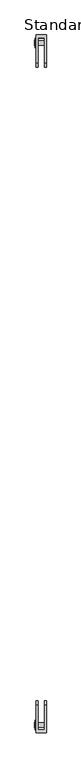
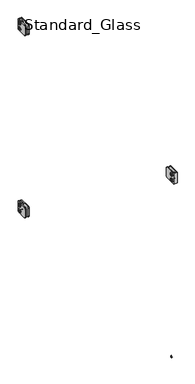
"""IFC4 building model written with IfcOpenShell, lengths in millimetres: railing geometry, Baluster-Excess-Fill-Straight-Panel-VIVA : Standard_Glass."""

from ifc_helpers import new_model, si_unit, point, frame, origin, place, context, project, spatial, polyline, circle_curve, ellipse_curve, trimmed, outline, extrude, source, transform, mapped, element, save
from ifc_brep_helpers import plane_surface, cylinder_surface, revolved_surface, advanced_brep


def standard_glass_ff66e2a0(model_context):
    return source(origin(), model_context, "Body", "SolidModel", [
        extrude(outline(polyline([(17.3185433, 917.178125), (15.2715791, 913.6326791), (11.1776508, 913.6326791), (9.1306867, 917.178125), (11.1776508, 920.7235709), (15.2715791, 920.7235709), (17.3185433, 917.178125)])), frame((21.7024185, 0.0, 0.0), z_axis=(1.0, 0.0, 0.0), x_axis=(0.0, 1.0, 0.0)), (0.0, 0.0, 1.0), 1.4969696),
        advanced_brep(
        [(36.7665, 16.7700609, 917.178125), (36.7665, 9.6791691, 917.178125), (24.0665, 9.6791691, 917.178125), (24.0665, 16.7700609, 917.178125), (24.0665, 5.8168259, 917.178125), (24.0665, 20.6324041, 917.178125), (23.199388, 14.8806904, 917.178125), (23.199388, 11.5685396, 917.178125), (36.7665, 11.5685396, 917.178125), (36.7665, 14.8806904, 917.178125), (23.2316551, 20.6324041, 917.178125), (23.2316551, 5.8168259, 917.178125), (21.9503831, 7.0980979, 917.178125), (21.9503831, 19.351132, 917.178125), (21.9503831, 8.9260194, 917.178125), (21.9503831, 17.5232105, 917.178125), (23.199388, 8.9260194, 917.178125), (23.199388, 17.5232105, 917.178125)],
        [
            (0, 1, circle_curve(frame((36.7665, 13.224615, 917.178125), z_axis=(-1.0, 0.0, 0.0), x_axis=(0.0, -1.0, 0.0)), 3.5454459)),
            (1, 2),
            (2, 3, circle_curve(frame((24.0665, 13.224615, 917.178125), z_axis=(1.0, 0.0, 0.0), x_axis=(0.0, -1.0, 0.0)), 3.5454459)),
            (3, 0),
            (1, 0, circle_curve(frame((36.7665, 13.224615, 917.178125), z_axis=(-1.0, 0.0, 0.0), x_axis=(0.0, -1.0, 0.0)), 3.5454459)),
            (3, 2, circle_curve(frame((24.0665, 13.224615, 917.178125), z_axis=(1.0, 0.0, 0.0), x_axis=(0.0, -1.0, 0.0)), 3.5454459)),
            (2, 4),
            (4, 5, circle_curve(frame((24.0665, 13.224615, 917.178125), z_axis=(1.0, 0.0, 0.0), x_axis=(0.0, -1.0, 0.0)), 7.4077891)),
            (5, 3),
            (5, 4, circle_curve(frame((24.0665, 13.224615, 917.178125), z_axis=(1.0, 0.0, 0.0), x_axis=(0.0, -1.0, 0.0)), 7.4077891)),
            (6, 7, circle_curve(frame((23.199388, 13.224615, 917.178125), z_axis=(-1.0, 0.0, 0.0), x_axis=(0.0, -1.0, 0.0)), 1.6560754)),
            (7, 8),
            (8, 9, circle_curve(frame((36.7665, 13.224615, 917.178125), z_axis=(1.0, 0.0, 0.0), x_axis=(0.0, -1.0, 0.0)), 1.6560754)),
            (9, 6),
            (7, 6, circle_curve(frame((23.199388, 13.224615, 917.178125), z_axis=(-1.0, 0.0, 0.0), x_axis=(0.0, -1.0, 0.0)), 1.6560754)),
            (9, 8, circle_curve(frame((36.7665, 13.224615, 917.178125), z_axis=(1.0, 0.0, 0.0), x_axis=(0.0, -1.0, 0.0)), 1.6560754)),
            (10, 11, circle_curve(frame((23.2316551, 13.224615, 917.178125), z_axis=(-1.0, 0.0, 0.0), x_axis=(0.0, -1.0, 0.0)), 7.4077891)),
            (11, 12, circle_curve(frame((23.2316551, 7.0980979, 917.178125), z_axis=(0.0, 0.0, -1.0), x_axis=(0.0, -1.0, 0.0)), 1.281272)),
            (12, 13, circle_curve(frame((21.9503831, 13.224615, 917.178125), z_axis=(1.0, 0.0, 0.0), x_axis=(0.0, -1.0, 0.0)), 6.1265171)),
            (13, 10, circle_curve(frame((23.2316551, 19.351132, 917.178125), z_axis=(0.0, 0.0, -1.0), x_axis=(0.0, 1.0, 0.0)), 1.281272)),
            (11, 10, circle_curve(frame((23.2316551, 13.224615, 917.178125), z_axis=(-1.0, 0.0, 0.0), x_axis=(0.0, -1.0, 0.0)), 7.4077891)),
            (13, 12, circle_curve(frame((21.9503831, 13.224615, 917.178125), z_axis=(1.0, 0.0, 0.0), x_axis=(0.0, -1.0, 0.0)), 6.1265171)),
            (12, 14),
            (14, 15, circle_curve(frame((21.9503831, 13.224615, 917.178125), z_axis=(1.0, 0.0, 0.0), x_axis=(0.0, -1.0, 0.0)), 4.2985955)),
            (15, 13),
            (15, 14, circle_curve(frame((21.9503831, 13.224615, 917.178125), z_axis=(1.0, 0.0, 0.0), x_axis=(0.0, -1.0, 0.0)), 4.2985955)),
            (4, 11),
            (10, 5),
            (8, 1),
            (0, 9),
            (14, 16),
            (16, 17, circle_curve(frame((23.199388, 13.224615, 917.178125), z_axis=(1.0, 0.0, 0.0), x_axis=(0.0, -1.0, 0.0)), 4.2985955)),
            (17, 15),
            (17, 16, circle_curve(frame((23.199388, 13.224615, 917.178125), z_axis=(1.0, 0.0, 0.0), x_axis=(0.0, -1.0, 0.0)), 4.2985955)),
            (16, 7),
            (6, 17),
        ],
        [
            cylinder_surface(frame((27.5632331, 13.224615, 917.178125), z_axis=(1.0, 0.0, 0.0), x_axis=(0.0, -1.0, 0.0)), 3.5454459),
            plane_surface(frame((24.0665, 13.224615, 917.178125), z_axis=(1.0, 0.0, 0.0), x_axis=(0.0, -1.0, 0.0))),
            revolved_surface(polyline([(36.7665, 11.5685396, 917.178125), (23.199388, 11.5685396, 917.178125)]), (27.5632331, 13.224615, 917.178125), (1.0, 0.0, 0.0)),
            revolved_surface(trimmed(ellipse_curve(frame((23.2316551, 7.0980979, 917.178125), z_axis=(0.0, 0.0, 1.0), x_axis=(0.0, -1.0, 0.0)), 1.281272, 1.281272), [point((21.9503831, 7.0980979, 917.178125))], [point((23.2316551, 5.8168259, 917.178125))], True, "CARTESIAN"), (27.5632331, 13.224615, 917.178125), (1.0, 0.0, 0.0)),
            plane_surface(frame((21.9503831, 13.224615, 917.178125), z_axis=(-1.0, 0.0, 0.0), x_axis=(0.0, -1.0, 0.0))),
            cylinder_surface(frame((27.5632331, 13.224615, 917.178125), z_axis=(1.0, 0.0, 0.0), x_axis=(0.0, -1.0, 0.0)), 7.4077891),
            plane_surface(frame((36.7665, 13.224615, 917.178125), z_axis=(1.0, 0.0, 0.0), x_axis=(0.0, -1.0, 0.0))),
            revolved_surface(polyline([(23.199388, 8.926019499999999, 917.178125), (21.9503831, 8.926019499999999, 917.178125)]), (27.5632331, 13.224615, 917.178125), (1.0, 0.0, 0.0)),
            plane_surface(frame((23.199388, 13.224615, 917.178125), z_axis=(-1.0, 0.0, 0.0), x_axis=(0.0, -1.0, 0.0))),
        ],
        [
            (0, [[1, 2, 3, 4]]),
            (0, [[5, -4, 6, -2]]),
            (1, [[-3, 7, 8, 9]]),
            (1, [[-6, -9, 10, -7]]),
            (2, [[11, 12, 13, 14]]),
            (2, [[15, -14, 16, -12]]),
            (3, [[17, 18, 19, 20]]),
            (3, [[21, -20, 22, -18]]),
            (4, [[-19, 23, 24, 25]]),
            (4, [[-22, -25, 26, -23]]),
            (5, [[-8, 27, -17, 28]]),
            (5, [[-10, -28, -21, -27]]),
            (6, [[-13, 29, -1, 30]]),
            (6, [[-16, -30, -5, -29]]),
            (7, [[-24, 31, 32, 33]]),
            (7, [[-26, -33, 34, -31]]),
            (8, [[-32, 35, -11, 36]]),
            (8, [[-34, -36, -15, -35]]),
        ],
    ),
        advanced_brep(
        [(36.7665, 16.7700609, 892.571875), (36.7665, 9.6791691, 892.571875), (24.0665, 9.6791691, 892.571875), (24.0665, 16.7700609, 892.571875), (24.0665, 5.8168259, 892.571875), (24.0665, 20.6324041, 892.571875), (23.199388, 14.8806904, 892.571875), (23.199388, 11.5685396, 892.571875), (36.7665, 11.5685396, 892.571875), (36.7665, 14.8806904, 892.571875), (23.2316551, 20.6324041, 892.571875), (23.2316551, 5.8168259, 892.571875), (21.9503831, 7.0980979, 892.571875), (21.9503831, 19.351132, 892.571875), (21.9503831, 8.9260194, 892.571875), (21.9503831, 17.5232105, 892.571875), (23.199388, 8.9260194, 892.571875), (23.199388, 17.5232105, 892.571875)],
        [
            (0, 1, circle_curve(frame((36.7665, 13.224615, 892.571875), z_axis=(-1.0, 0.0, 0.0), x_axis=(0.0, -1.0, 0.0)), 3.5454459)),
            (1, 2),
            (2, 3, circle_curve(frame((24.0665, 13.224615, 892.571875), z_axis=(1.0, 0.0, 0.0), x_axis=(0.0, -1.0, 0.0)), 3.5454459)),
            (3, 0),
            (1, 0, circle_curve(frame((36.7665, 13.224615, 892.571875), z_axis=(-1.0, 0.0, 0.0), x_axis=(0.0, -1.0, 0.0)), 3.5454459)),
            (3, 2, circle_curve(frame((24.0665, 13.224615, 892.571875), z_axis=(1.0, 0.0, 0.0), x_axis=(0.0, -1.0, 0.0)), 3.5454459)),
            (2, 4),
            (4, 5, circle_curve(frame((24.0665, 13.224615, 892.571875), z_axis=(1.0, 0.0, 0.0), x_axis=(0.0, -1.0, 0.0)), 7.4077891)),
            (5, 3),
            (5, 4, circle_curve(frame((24.0665, 13.224615, 892.571875), z_axis=(1.0, 0.0, 0.0), x_axis=(0.0, -1.0, 0.0)), 7.4077891)),
            (6, 7, circle_curve(frame((23.199388, 13.224615, 892.571875), z_axis=(-1.0, 0.0, 0.0), x_axis=(0.0, -1.0, 0.0)), 1.6560754)),
            (7, 8),
            (8, 9, circle_curve(frame((36.7665, 13.224615, 892.571875), z_axis=(1.0, 0.0, 0.0), x_axis=(0.0, -1.0, 0.0)), 1.6560754)),
            (9, 6),
            (7, 6, circle_curve(frame((23.199388, 13.224615, 892.571875), z_axis=(-1.0, 0.0, 0.0), x_axis=(0.0, -1.0, 0.0)), 1.6560754)),
            (9, 8, circle_curve(frame((36.7665, 13.224615, 892.571875), z_axis=(1.0, 0.0, 0.0), x_axis=(0.0, -1.0, 0.0)), 1.6560754)),
            (10, 11, circle_curve(frame((23.2316551, 13.224615, 892.571875), z_axis=(-1.0, 0.0, 0.0), x_axis=(0.0, -1.0, 0.0)), 7.4077891)),
            (11, 12, circle_curve(frame((23.2316551, 7.0980979, 892.571875), z_axis=(0.0, 0.0, -1.0), x_axis=(0.0, -1.0, 0.0)), 1.281272)),
            (12, 13, circle_curve(frame((21.9503831, 13.224615, 892.571875), z_axis=(1.0, 0.0, 0.0), x_axis=(0.0, -1.0, 0.0)), 6.1265171)),
            (13, 10, circle_curve(frame((23.2316551, 19.351132, 892.571875), z_axis=(0.0, 0.0, -1.0), x_axis=(0.0, 1.0, 0.0)), 1.281272)),
            (11, 10, circle_curve(frame((23.2316551, 13.224615, 892.571875), z_axis=(-1.0, 0.0, 0.0), x_axis=(0.0, -1.0, 0.0)), 7.4077891)),
            (13, 12, circle_curve(frame((21.9503831, 13.224615, 892.571875), z_axis=(1.0, 0.0, 0.0), x_axis=(0.0, -1.0, 0.0)), 6.1265171)),
            (12, 14),
            (14, 15, circle_curve(frame((21.9503831, 13.224615, 892.571875), z_axis=(1.0, 0.0, 0.0), x_axis=(0.0, -1.0, 0.0)), 4.2985955)),
            (15, 13),
            (15, 14, circle_curve(frame((21.9503831, 13.224615, 892.571875), z_axis=(1.0, 0.0, 0.0), x_axis=(0.0, -1.0, 0.0)), 4.2985955)),
            (8, 1),
            (0, 9),
            (4, 11),
            (10, 5),
            (14, 16),
            (16, 17, circle_curve(frame((23.199388, 13.224615, 892.571875), z_axis=(1.0, 0.0, 0.0), x_axis=(0.0, -1.0, 0.0)), 4.2985955)),
            (17, 15),
            (17, 16, circle_curve(frame((23.199388, 13.224615, 892.571875), z_axis=(1.0, 0.0, 0.0), x_axis=(0.0, -1.0, 0.0)), 4.2985955)),
            (16, 7),
            (6, 17),
        ],
        [
            cylinder_surface(frame((27.5632331, 13.224615, 892.571875), z_axis=(1.0, 0.0, 0.0), x_axis=(0.0, -1.0, 0.0)), 3.5454459),
            plane_surface(frame((24.0665, 13.224615, 892.571875), z_axis=(1.0, 0.0, 0.0), x_axis=(0.0, -1.0, 0.0))),
            revolved_surface(polyline([(36.7665, 11.5685396, 892.571875), (23.199388, 11.5685396, 892.571875)]), (27.5632331, 13.224615, 892.571875), (1.0, 0.0, 0.0)),
            revolved_surface(trimmed(ellipse_curve(frame((23.2316551, 7.0980979, 892.571875), z_axis=(0.0, 0.0, 1.0), x_axis=(0.0, -1.0, 0.0)), 1.281272, 1.281272), [point((21.9503831, 7.0980979, 892.571875))], [point((23.2316551, 5.8168259, 892.571875))], True, "CARTESIAN"), (27.5632331, 13.224615, 892.571875), (1.0, 0.0, 0.0)),
            plane_surface(frame((21.9503831, 13.224615, 892.571875), z_axis=(-1.0, 0.0, 0.0), x_axis=(0.0, -1.0, 0.0))),
            plane_surface(frame((36.7665, 13.224615, 892.571875), z_axis=(1.0, 0.0, 0.0), x_axis=(0.0, -1.0, 0.0))),
            cylinder_surface(frame((27.5632331, 13.224615, 892.571875), z_axis=(1.0, 0.0, 0.0), x_axis=(0.0, -1.0, 0.0)), 7.4077891),
            revolved_surface(polyline([(23.199388, 8.926019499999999, 892.571875), (21.9503831, 8.926019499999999, 892.571875)]), (27.5632331, 13.224615, 892.571875), (1.0, 0.0, 0.0)),
            plane_surface(frame((23.199388, 13.224615, 892.571875), z_axis=(-1.0, 0.0, 0.0), x_axis=(0.0, -1.0, 0.0))),
        ],
        [
            (0, [[1, 2, 3, 4]]),
            (0, [[5, -4, 6, -2]]),
            (1, [[-3, 7, 8, 9]]),
            (1, [[-6, -9, 10, -7]]),
            (2, [[11, 12, 13, 14]]),
            (2, [[15, -14, 16, -12]]),
            (3, [[17, 18, 19, 20]]),
            (3, [[21, -20, 22, -18]]),
            (4, [[-19, 23, 24, 25]]),
            (4, [[-22, -25, 26, -23]]),
            (5, [[-13, 27, -1, 28]]),
            (5, [[-16, -28, -5, -27]]),
            (6, [[-8, 29, -17, 30]]),
            (6, [[-10, -30, -21, -29]]),
            (7, [[-24, 31, 32, 33]]),
            (7, [[-26, -33, 34, -31]]),
            (8, [[-32, 35, -11, 36]]),
            (8, [[-34, -36, -15, -35]]),
        ],
    ),
        extrude(outline(polyline([(17.3185433, 892.571875), (15.2715791, 889.0264291), (11.1776508, 889.0264291), (9.1306867, 892.571875), (11.1776508, 896.1173209), (15.2715791, 896.1173209), (17.3185433, 892.571875)])), frame((21.7024185, 0.0, 0.0), z_axis=(1.0, 0.0, 0.0), x_axis=(0.0, 1.0, 0.0)), (0.0, 0.0, 1.0), 1.4969696),
        advanced_brep(
        [(24.0665, 25.8579597, 927.1), (24.0665, 25.8579597, 882.65), (24.0665, -18.5920403, 882.65), (24.0665, -24.9420403, 889.0), (24.0665, -24.9420403, 920.75), (24.0665, -18.5920403, 927.1), (39.9415, 25.8579597, 927.1), (39.9415, -18.5920403, 927.1), (39.9415, -24.9420403, 920.75), (39.9415, -24.9420403, 889.0), (39.9415, -18.5920403, 882.65), (39.9415, 25.8579597, 882.65), (36.7665, -18.5920403, 882.65), (36.7665, 21.1398793, 882.65), (27.2415, 21.1398793, 882.65), (27.2415, -18.5920403, 882.65), (36.7665, 21.1398793, 927.1), (27.2415, 21.1398793, 927.1), (27.2415, -18.5920403, 927.1), (27.2415, -24.9420403, 920.75), (27.2415, -24.9420403, 889.0), (36.7665, -24.9420403, 889.0), (36.7665, -24.9420403, 920.75), (36.7665, -18.5920403, 927.1)],
        [
            (0, 1),
            (1, 2),
            (2, 3, circle_curve(frame((24.0665, -18.5920403, 889.0), z_axis=(-1.0, 0.0, 0.0), x_axis=(0.0, -1.0, 0.0)), 6.35)),
            (3, 4),
            (4, 5, circle_curve(frame((24.0665, -18.5920403, 920.75), z_axis=(-1.0, 0.0, 0.0), x_axis=(0.0, -1.0, 0.0)), 6.35)),
            (5, 0),
            (6, 7),
            (7, 8, circle_curve(frame((39.9415, -18.5920403, 920.75), z_axis=(1.0, 0.0, 0.0), x_axis=(0.0, -1.0, 0.0)), 6.35)),
            (8, 9),
            (9, 10, circle_curve(frame((39.9415, -18.5920403, 889.0), z_axis=(1.0, 0.0, 0.0), x_axis=(0.0, -1.0, 0.0)), 6.35)),
            (10, 11),
            (11, 6),
            (0, 6),
            (11, 1),
            (10, 12),
            (12, 13),
            (13, 14),
            (14, 15),
            (15, 2),
            (13, 16),
            (16, 17),
            (17, 14),
            (17, 18),
            (18, 19, circle_curve(frame((27.2415, -18.5920403, 920.75), z_axis=(1.0, 0.0, 0.0), x_axis=(0.0, -1.0, 0.0)), 6.35)),
            (19, 20),
            (20, 15, circle_curve(frame((27.2415, -18.5920403, 889.0), z_axis=(1.0, 0.0, 0.0), x_axis=(0.0, -1.0, 0.0)), 6.35)),
            (12, 21, circle_curve(frame((36.7665, -18.5920403, 889.0), z_axis=(-1.0, 0.0, 0.0), x_axis=(0.0, -1.0, 0.0)), 6.35)),
            (21, 22),
            (22, 23, circle_curve(frame((36.7665, -18.5920403, 920.75), z_axis=(-1.0, 0.0, 0.0), x_axis=(0.0, -1.0, 0.0)), 6.35)),
            (23, 16),
            (20, 3),
            (9, 21),
            (19, 4),
            (8, 22),
            (18, 5),
            (7, 23),
        ],
        [
            plane_surface(frame((24.0665, 25.8579597, 882.65), z_axis=(-1.0, 0.0, 0.0), x_axis=(0.0, 0.0, -1.0))),
            plane_surface(frame((39.9415, 25.8579597, 882.65), z_axis=(1.0, 0.0, 0.0), x_axis=(0.0, 0.0, 1.0))),
            plane_surface(frame((24.0665, 25.8579597, 927.1), z_axis=(0.0, 1.0, 0.0), x_axis=(1.0, 0.0, 0.0))),
            plane_surface(frame((24.0665, 25.8579597, 882.65), z_axis=(0.0, 0.0, -1.0), x_axis=(1.0, 0.0, 0.0))),
            plane_surface(frame((36.7665, 21.1398793, 939.8), z_axis=(0.0, -1.0, 0.0), x_axis=(0.0, 0.0, -1.0))),
            plane_surface(frame((27.2415, 21.1398793, 939.8), z_axis=(1.0, 0.0, 0.0), x_axis=(0.0, 0.0, -1.0))),
            plane_surface(frame((36.7665, -37.6420403, 939.8), z_axis=(-1.0, 0.0, 0.0), x_axis=(0.0, 0.0, -1.0))),
            cylinder_surface(frame((39.9415, -18.5920403, 889.0), z_axis=(-1.0, 0.0, 0.0), x_axis=(0.0, -1.0, 0.0)), 6.35),
            plane_surface(frame((24.0665, -24.9420403, 889.0), z_axis=(0.0, -1.0, 0.0), x_axis=(1.0, 0.0, 0.0))),
            cylinder_surface(frame((39.9415, -18.5920403, 920.75), z_axis=(-1.0, 0.0, 0.0), x_axis=(0.0, -1.0, 0.0)), 6.35),
            plane_surface(frame((24.0665, -18.5920403, 927.1), z_axis=(0.0, 0.0, 1.0), x_axis=(1.0, 0.0, 0.0))),
        ],
        [
            (0, [[1, 2, 3, 4, 5, 6]]),
            (1, [[7, 8, 9, 10, 11, 12]]),
            (2, [[-1, 13, -12, 14]]),
            (3, [[-2, -14, -11, 15, 16, 17, 18, 19]]),
            (4, [[20, 21, 22, -17]]),
            (5, [[-22, 23, 24, 25, 26, -18]]),
            (6, [[-20, -16, 27, 28, 29, 30]]),
            (7, [[-3, -19, -26, 31]]),
            (7, [[-10, 32, -27, -15]]),
            (8, [[-4, -31, -25, 33]]),
            (8, [[-9, 34, -28, -32]]),
            (9, [[-5, -33, -24, 35]]),
            (9, [[-8, 36, -29, -34]]),
            (10, [[-6, -35, -23, -21, -30, -36, -7, -13]]),
        ],
    ),
        extrude(outline(polyline([(17.3185433, 138.7358896), (15.2715791, 135.1904437), (11.1776508, 135.1904437), (9.1306867, 138.7358896), (11.1776508, 142.2813355), (15.2715791, 142.2813355), (17.3185433, 138.7358896)])), frame((21.7024185, 0.0, 0.0), z_axis=(1.0, 0.0, 0.0), x_axis=(0.0, 1.0, 0.0)), (0.0, 0.0, 1.0), 1.4969696),
        advanced_brep(
        [(36.7665, 16.7700609, 138.7358896), (36.7665, 9.6791691, 138.7358896), (24.0665, 9.6791691, 138.7358896), (24.0665, 16.7700609, 138.7358896), (24.0665, 5.8168259, 138.7358896), (24.0665, 20.6324041, 138.7358896), (23.199388, 14.8806904, 138.7358896), (23.199388, 11.5685396, 138.7358896), (36.7665, 11.5685396, 138.7358896), (36.7665, 14.8806904, 138.7358896), (23.2316551, 20.6324041, 138.7358896), (23.2316551, 5.8168259, 138.7358896), (21.9503831, 7.0980979, 138.7358896), (21.9503831, 19.351132, 138.7358896), (21.9503831, 8.9260194, 138.7358896), (21.9503831, 17.5232105, 138.7358896), (23.199388, 8.9260194, 138.7358896), (23.199388, 17.5232105, 138.7358896)],
        [
            (0, 1, circle_curve(frame((36.7665, 13.224615, 138.7358896), z_axis=(-1.0, 0.0, 0.0), x_axis=(0.0, -1.0, 0.0)), 3.5454459)),
            (1, 2),
            (2, 3, circle_curve(frame((24.0665, 13.224615, 138.7358896), z_axis=(1.0, 0.0, 0.0), x_axis=(0.0, -1.0, 0.0)), 3.5454459)),
            (3, 0),
            (1, 0, circle_curve(frame((36.7665, 13.224615, 138.7358896), z_axis=(-1.0, 0.0, 0.0), x_axis=(0.0, -1.0, 0.0)), 3.5454459)),
            (3, 2, circle_curve(frame((24.0665, 13.224615, 138.7358896), z_axis=(1.0, 0.0, 0.0), x_axis=(0.0, -1.0, 0.0)), 3.5454459)),
            (2, 4),
            (4, 5, circle_curve(frame((24.0665, 13.224615, 138.7358896), z_axis=(1.0, 0.0, 0.0), x_axis=(0.0, -1.0, 0.0)), 7.4077891)),
            (5, 3),
            (5, 4, circle_curve(frame((24.0665, 13.224615, 138.7358896), z_axis=(1.0, 0.0, 0.0), x_axis=(0.0, -1.0, 0.0)), 7.4077891)),
            (6, 7, circle_curve(frame((23.199388, 13.224615, 138.7358896), z_axis=(-1.0, 0.0, 0.0), x_axis=(0.0, -1.0, 0.0)), 1.6560754)),
            (7, 8),
            (8, 9, circle_curve(frame((36.7665, 13.224615, 138.7358896), z_axis=(1.0, 0.0, 0.0), x_axis=(0.0, -1.0, 0.0)), 1.6560754)),
            (9, 6),
            (7, 6, circle_curve(frame((23.199388, 13.224615, 138.7358896), z_axis=(-1.0, 0.0, 0.0), x_axis=(0.0, -1.0, 0.0)), 1.6560754)),
            (9, 8, circle_curve(frame((36.7665, 13.224615, 138.7358896), z_axis=(1.0, 0.0, 0.0), x_axis=(0.0, -1.0, 0.0)), 1.6560754)),
            (10, 11, circle_curve(frame((23.2316551, 13.224615, 138.7358896), z_axis=(-1.0, 0.0, 0.0), x_axis=(0.0, -1.0, 0.0)), 7.4077891)),
            (11, 12, circle_curve(frame((23.2316551, 7.0980979, 138.7358896), z_axis=(0.0, 0.0, -1.0), x_axis=(0.0, -1.0, 0.0)), 1.281272)),
            (12, 13, circle_curve(frame((21.9503831, 13.224615, 138.7358896), z_axis=(1.0, 0.0, 0.0), x_axis=(0.0, -1.0, 0.0)), 6.1265171)),
            (13, 10, circle_curve(frame((23.2316551, 19.351132, 138.7358896), z_axis=(0.0, 0.0, -1.0), x_axis=(0.0, 1.0, 0.0)), 1.281272)),
            (11, 10, circle_curve(frame((23.2316551, 13.224615, 138.7358896), z_axis=(-1.0, 0.0, 0.0), x_axis=(0.0, -1.0, 0.0)), 7.4077891)),
            (13, 12, circle_curve(frame((21.9503831, 13.224615, 138.7358896), z_axis=(1.0, 0.0, 0.0), x_axis=(0.0, -1.0, 0.0)), 6.1265171)),
            (12, 14),
            (14, 15, circle_curve(frame((21.9503831, 13.224615, 138.7358896), z_axis=(1.0, 0.0, 0.0), x_axis=(0.0, -1.0, 0.0)), 4.2985955)),
            (15, 13),
            (15, 14, circle_curve(frame((21.9503831, 13.224615, 138.7358896), z_axis=(1.0, 0.0, 0.0), x_axis=(0.0, -1.0, 0.0)), 4.2985955)),
            (4, 11),
            (10, 5),
            (8, 1),
            (0, 9),
            (14, 16),
            (16, 17, circle_curve(frame((23.199388, 13.224615, 138.7358896), z_axis=(1.0, 0.0, 0.0), x_axis=(0.0, -1.0, 0.0)), 4.2985955)),
            (17, 15),
            (17, 16, circle_curve(frame((23.199388, 13.224615, 138.7358896), z_axis=(1.0, 0.0, 0.0), x_axis=(0.0, -1.0, 0.0)), 4.2985955)),
            (16, 7),
            (6, 17),
        ],
        [
            cylinder_surface(frame((27.5632331, 13.224615, 138.7358896), z_axis=(1.0, 0.0, 0.0), x_axis=(0.0, -1.0, 0.0)), 3.5454459),
            plane_surface(frame((24.0665, 13.224615, 138.7358896), z_axis=(1.0, 0.0, 0.0), x_axis=(0.0, -1.0, 0.0))),
            revolved_surface(polyline([(36.7665, 11.5685396, 138.7358896), (23.199388, 11.5685396, 138.7358896)]), (27.5632331, 13.224615, 138.7358896), (1.0, 0.0, 0.0)),
            revolved_surface(trimmed(ellipse_curve(frame((23.2316551, 7.0980979, 138.7358896), z_axis=(0.0, 0.0, 1.0), x_axis=(0.0, -1.0, 0.0)), 1.281272, 1.281272), [point((21.9503831, 7.0980979, 138.7358896))], [point((23.2316551, 5.8168259, 138.7358896))], True, "CARTESIAN"), (27.5632331, 13.224615, 138.7358896), (1.0, 0.0, 0.0)),
            plane_surface(frame((21.9503831, 13.224615, 138.7358896), z_axis=(-1.0, 0.0, 0.0), x_axis=(0.0, -1.0, 0.0))),
            cylinder_surface(frame((27.5632331, 13.224615, 138.7358896), z_axis=(1.0, 0.0, 0.0), x_axis=(0.0, -1.0, 0.0)), 7.4077891),
            plane_surface(frame((36.7665, 13.224615, 138.7358896), z_axis=(1.0, 0.0, 0.0), x_axis=(0.0, -1.0, 0.0))),
            revolved_surface(polyline([(23.199388, 8.926019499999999, 138.7358896), (21.9503831, 8.926019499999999, 138.7358896)]), (27.5632331, 13.224615, 138.7358896), (1.0, 0.0, 0.0)),
            plane_surface(frame((23.199388, 13.224615, 138.7358896), z_axis=(-1.0, 0.0, 0.0), x_axis=(0.0, -1.0, 0.0))),
        ],
        [
            (0, [[1, 2, 3, 4]]),
            (0, [[5, -4, 6, -2]]),
            (1, [[-3, 7, 8, 9]]),
            (1, [[-6, -9, 10, -7]]),
            (2, [[11, 12, 13, 14]]),
            (2, [[15, -14, 16, -12]]),
            (3, [[17, 18, 19, 20]]),
            (3, [[21, -20, 22, -18]]),
            (4, [[-19, 23, 24, 25]]),
            (4, [[-22, -25, 26, -23]]),
            (5, [[-8, 27, -17, 28]]),
            (5, [[-10, -28, -21, -27]]),
            (6, [[-13, 29, -1, 30]]),
            (6, [[-16, -30, -5, -29]]),
            (7, [[-24, 31, 32, 33]]),
            (7, [[-26, -33, 34, -31]]),
            (8, [[-32, 35, -11, 36]]),
            (8, [[-34, -36, -15, -35]]),
        ],
    ),
        advanced_brep(
        [(36.7665, 16.7700609, 114.1296396), (36.7665, 9.6791691, 114.1296396), (24.0665, 9.6791691, 114.1296396), (24.0665, 16.7700609, 114.1296396), (24.0665, 5.8168259, 114.1296396), (24.0665, 20.6324041, 114.1296396), (23.199388, 14.8806904, 114.1296396), (23.199388, 11.5685396, 114.1296396), (36.7665, 11.5685396, 114.1296396), (36.7665, 14.8806904, 114.1296396), (23.2316551, 20.6324041, 114.1296396), (23.2316551, 5.8168259, 114.1296396), (21.9503831, 7.0980979, 114.1296396), (21.9503831, 19.351132, 114.1296396), (21.9503831, 8.9260194, 114.1296396), (21.9503831, 17.5232105, 114.1296396), (23.199388, 8.9260194, 114.1296396), (23.199388, 17.5232105, 114.1296396)],
        [
            (0, 1, circle_curve(frame((36.7665, 13.224615, 114.1296396), z_axis=(-1.0, 0.0, 0.0), x_axis=(0.0, -1.0, 0.0)), 3.5454459)),
            (1, 2),
            (2, 3, circle_curve(frame((24.0665, 13.224615, 114.1296396), z_axis=(1.0, 0.0, 0.0), x_axis=(0.0, -1.0, 0.0)), 3.5454459)),
            (3, 0),
            (1, 0, circle_curve(frame((36.7665, 13.224615, 114.1296396), z_axis=(-1.0, 0.0, 0.0), x_axis=(0.0, -1.0, 0.0)), 3.5454459)),
            (3, 2, circle_curve(frame((24.0665, 13.224615, 114.1296396), z_axis=(1.0, 0.0, 0.0), x_axis=(0.0, -1.0, 0.0)), 3.5454459)),
            (2, 4),
            (4, 5, circle_curve(frame((24.0665, 13.224615, 114.1296396), z_axis=(1.0, 0.0, 0.0), x_axis=(0.0, -1.0, 0.0)), 7.4077891)),
            (5, 3),
            (5, 4, circle_curve(frame((24.0665, 13.224615, 114.1296396), z_axis=(1.0, 0.0, 0.0), x_axis=(0.0, -1.0, 0.0)), 7.4077891)),
            (6, 7, circle_curve(frame((23.199388, 13.224615, 114.1296396), z_axis=(-1.0, 0.0, 0.0), x_axis=(0.0, -1.0, 0.0)), 1.6560754)),
            (7, 8),
            (8, 9, circle_curve(frame((36.7665, 13.224615, 114.1296396), z_axis=(1.0, 0.0, 0.0), x_axis=(0.0, -1.0, 0.0)), 1.6560754)),
            (9, 6),
            (7, 6, circle_curve(frame((23.199388, 13.224615, 114.1296396), z_axis=(-1.0, 0.0, 0.0), x_axis=(0.0, -1.0, 0.0)), 1.6560754)),
            (9, 8, circle_curve(frame((36.7665, 13.224615, 114.1296396), z_axis=(1.0, 0.0, 0.0), x_axis=(0.0, -1.0, 0.0)), 1.6560754)),
            (10, 11, circle_curve(frame((23.2316551, 13.224615, 114.1296396), z_axis=(-1.0, 0.0, 0.0), x_axis=(0.0, -1.0, 0.0)), 7.4077891)),
            (11, 12, circle_curve(frame((23.2316551, 7.0980979, 114.1296396), z_axis=(0.0, 0.0, -1.0), x_axis=(0.0, -1.0, 0.0)), 1.281272)),
            (12, 13, circle_curve(frame((21.9503831, 13.224615, 114.1296396), z_axis=(1.0, 0.0, 0.0), x_axis=(0.0, -1.0, 0.0)), 6.1265171)),
            (13, 10, circle_curve(frame((23.2316551, 19.351132, 114.1296396), z_axis=(0.0, 0.0, -1.0), x_axis=(0.0, 1.0, 0.0)), 1.281272)),
            (11, 10, circle_curve(frame((23.2316551, 13.224615, 114.1296396), z_axis=(-1.0, 0.0, 0.0), x_axis=(0.0, -1.0, 0.0)), 7.4077891)),
            (13, 12, circle_curve(frame((21.9503831, 13.224615, 114.1296396), z_axis=(1.0, 0.0, 0.0), x_axis=(0.0, -1.0, 0.0)), 6.1265171)),
            (12, 14),
            (14, 15, circle_curve(frame((21.9503831, 13.224615, 114.1296396), z_axis=(1.0, 0.0, 0.0), x_axis=(0.0, -1.0, 0.0)), 4.2985955)),
            (15, 13),
            (15, 14, circle_curve(frame((21.9503831, 13.224615, 114.1296396), z_axis=(1.0, 0.0, 0.0), x_axis=(0.0, -1.0, 0.0)), 4.2985955)),
            (8, 1),
            (0, 9),
            (4, 11),
            (10, 5),
            (14, 16),
            (16, 17, circle_curve(frame((23.199388, 13.224615, 114.1296396), z_axis=(1.0, 0.0, 0.0), x_axis=(0.0, -1.0, 0.0)), 4.2985955)),
            (17, 15),
            (17, 16, circle_curve(frame((23.199388, 13.224615, 114.1296396), z_axis=(1.0, 0.0, 0.0), x_axis=(0.0, -1.0, 0.0)), 4.2985955)),
            (16, 7),
            (6, 17),
        ],
        [
            cylinder_surface(frame((27.5632331, 13.224615, 114.1296396), z_axis=(1.0, 0.0, 0.0), x_axis=(0.0, -1.0, 0.0)), 3.5454459),
            plane_surface(frame((24.0665, 13.224615, 114.1296396), z_axis=(1.0, 0.0, 0.0), x_axis=(0.0, -1.0, 0.0))),
            revolved_surface(polyline([(36.7665, 11.5685396, 114.1296396), (23.199388, 11.5685396, 114.1296396)]), (27.5632331, 13.224615, 114.1296396), (1.0, 0.0, 0.0)),
            revolved_surface(trimmed(ellipse_curve(frame((23.2316551, 7.0980979, 114.1296396), z_axis=(0.0, 0.0, 1.0), x_axis=(0.0, -1.0, 0.0)), 1.281272, 1.281272), [point((21.9503831, 7.0980979, 114.1296396))], [point((23.2316551, 5.8168259, 114.1296396))], True, "CARTESIAN"), (27.5632331, 13.224615, 114.1296396), (1.0, 0.0, 0.0)),
            plane_surface(frame((21.9503831, 13.224615, 114.1296396), z_axis=(-1.0, 0.0, 0.0), x_axis=(0.0, -1.0, 0.0))),
            plane_surface(frame((36.7665, 13.224615, 114.1296396), z_axis=(1.0, 0.0, 0.0), x_axis=(0.0, -1.0, 0.0))),
            cylinder_surface(frame((27.5632331, 13.224615, 114.1296396), z_axis=(1.0, 0.0, 0.0), x_axis=(0.0, -1.0, 0.0)), 7.4077891),
            revolved_surface(polyline([(23.199388, 8.926019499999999, 114.1296396), (21.9503831, 8.926019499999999, 114.1296396)]), (27.5632331, 13.224615, 114.1296396), (1.0, 0.0, 0.0)),
            plane_surface(frame((23.199388, 13.224615, 114.1296396), z_axis=(-1.0, 0.0, 0.0), x_axis=(0.0, -1.0, 0.0))),
        ],
        [
            (0, [[1, 2, 3, 4]]),
            (0, [[5, -4, 6, -2]]),
            (1, [[-3, 7, 8, 9]]),
            (1, [[-6, -9, 10, -7]]),
            (2, [[11, 12, 13, 14]]),
            (2, [[15, -14, 16, -12]]),
            (3, [[17, 18, 19, 20]]),
            (3, [[21, -20, 22, -18]]),
            (4, [[-19, 23, 24, 25]]),
            (4, [[-22, -25, 26, -23]]),
            (5, [[-13, 27, -1, 28]]),
            (5, [[-16, -28, -5, -27]]),
            (6, [[-8, 29, -17, 30]]),
            (6, [[-10, -30, -21, -29]]),
            (7, [[-24, 31, 32, 33]]),
            (7, [[-26, -33, 34, -31]]),
            (8, [[-32, 35, -11, 36]]),
            (8, [[-34, -36, -15, -35]]),
        ],
    ),
        extrude(outline(polyline([(17.3185433, 114.1296396), (15.2715791, 110.5841937), (11.1776508, 110.5841937), (9.1306867, 114.1296396), (11.1776508, 117.6750855), (15.2715791, 117.6750855), (17.3185433, 114.1296396)])), frame((21.7024185, 0.0, 0.0), z_axis=(1.0, 0.0, 0.0), x_axis=(0.0, 1.0, 0.0)), (0.0, 0.0, 1.0), 1.4969696),
        advanced_brep(
        [(24.0665, 25.8579597, 148.6577646), (24.0665, 25.8579597, 104.2077646), (24.0665, -18.5920403, 104.2077646), (24.0665, -24.9420403, 110.5577646), (24.0665, -24.9420403, 142.3077646), (24.0665, -18.5920403, 148.6577646), (39.9415, 25.8579597, 148.6577646), (39.9415, -18.5920403, 148.6577646), (39.9415, -24.9420403, 142.3077646), (39.9415, -24.9420403, 110.5577646), (39.9415, -18.5920403, 104.2077646), (39.9415, 25.8579597, 104.2077646), (36.7665, -18.5920403, 104.2077646), (36.7665, 21.1398793, 104.2077646), (27.2415, 21.1398793, 104.2077646), (27.2415, -18.5920403, 104.2077646), (36.7665, 21.1398793, 148.6577646), (27.2415, 21.1398793, 148.6577646), (27.2415, -18.5920403, 148.6577646), (27.2415, -24.9420403, 142.3077646), (27.2415, -24.9420403, 110.5577646), (36.7665, -24.9420403, 110.5577646), (36.7665, -24.9420403, 142.3077646), (36.7665, -18.5920403, 148.6577646)],
        [
            (0, 1),
            (1, 2),
            (2, 3, circle_curve(frame((24.0665, -18.5920403, 110.5577646), z_axis=(-1.0, 0.0, 0.0), x_axis=(0.0, -1.0, 0.0)), 6.35)),
            (3, 4),
            (4, 5, circle_curve(frame((24.0665, -18.5920403, 142.3077646), z_axis=(-1.0, 0.0, 0.0), x_axis=(0.0, -1.0, 0.0)), 6.35)),
            (5, 0),
            (6, 7),
            (7, 8, circle_curve(frame((39.9415, -18.5920403, 142.3077646), z_axis=(1.0, 0.0, 0.0), x_axis=(0.0, -1.0, 0.0)), 6.35)),
            (8, 9),
            (9, 10, circle_curve(frame((39.9415, -18.5920403, 110.5577646), z_axis=(1.0, 0.0, 0.0), x_axis=(0.0, -1.0, 0.0)), 6.35)),
            (10, 11),
            (11, 6),
            (0, 6),
            (11, 1),
            (10, 12),
            (12, 13),
            (13, 14),
            (14, 15),
            (15, 2),
            (13, 16),
            (16, 17),
            (17, 14),
            (17, 18),
            (18, 19, circle_curve(frame((27.2415, -18.5920403, 142.3077646), z_axis=(1.0, 0.0, 0.0), x_axis=(0.0, -1.0, 0.0)), 6.35)),
            (19, 20),
            (20, 15, circle_curve(frame((27.2415, -18.5920403, 110.5577646), z_axis=(1.0, 0.0, 0.0), x_axis=(0.0, -1.0, 0.0)), 6.35)),
            (12, 21, circle_curve(frame((36.7665, -18.5920403, 110.5577646), z_axis=(-1.0, 0.0, 0.0), x_axis=(0.0, -1.0, 0.0)), 6.35)),
            (21, 22),
            (22, 23, circle_curve(frame((36.7665, -18.5920403, 142.3077646), z_axis=(-1.0, 0.0, 0.0), x_axis=(0.0, -1.0, 0.0)), 6.35)),
            (23, 16),
            (20, 3),
            (9, 21),
            (19, 4),
            (8, 22),
            (18, 5),
            (7, 23),
        ],
        [
            plane_surface(frame((24.0665, 25.8579597, 104.2077646), z_axis=(-1.0, 0.0, 0.0), x_axis=(0.0, 0.0, -1.0))),
            plane_surface(frame((39.9415, 25.8579597, 104.2077646), z_axis=(1.0, 0.0, 0.0), x_axis=(0.0, 0.0, 1.0))),
            plane_surface(frame((24.0665, 25.8579597, 148.6577646), z_axis=(0.0, 1.0, 0.0), x_axis=(1.0, 0.0, 0.0))),
            plane_surface(frame((24.0665, 25.8579597, 104.2077646), z_axis=(0.0, 0.0, -1.0), x_axis=(1.0, 0.0, 0.0))),
            plane_surface(frame((36.7665, 21.1398793, 161.3577646), z_axis=(0.0, -1.0, 0.0), x_axis=(0.0, 0.0, -1.0))),
            plane_surface(frame((27.2415, 21.1398793, 161.3577646), z_axis=(1.0, 0.0, 0.0), x_axis=(0.0, 0.0, -1.0))),
            plane_surface(frame((36.7665, -37.6420403, 161.3577646), z_axis=(-1.0, 0.0, 0.0), x_axis=(0.0, 0.0, -1.0))),
            cylinder_surface(frame((39.9415, -18.5920403, 110.5577646), z_axis=(-1.0, 0.0, 0.0), x_axis=(0.0, -1.0, 0.0)), 6.35),
            plane_surface(frame((24.0665, -24.9420403, 110.5577646), z_axis=(0.0, -1.0, 0.0), x_axis=(1.0, 0.0, 0.0))),
            cylinder_surface(frame((39.9415, -18.5920403, 142.3077646), z_axis=(-1.0, 0.0, 0.0), x_axis=(0.0, -1.0, 0.0)), 6.35),
            plane_surface(frame((24.0665, -18.5920403, 148.6577646), z_axis=(0.0, 0.0, 1.0), x_axis=(1.0, 0.0, 0.0))),
        ],
        [
            (0, [[1, 2, 3, 4, 5, 6]]),
            (1, [[7, 8, 9, 10, 11, 12]]),
            (2, [[-1, 13, -12, 14]]),
            (3, [[-2, -14, -11, 15, 16, 17, 18, 19]]),
            (4, [[20, 21, 22, -17]]),
            (5, [[-22, 23, 24, 25, 26, -18]]),
            (6, [[-20, -16, 27, 28, 29, 30]]),
            (7, [[-3, -19, -26, 31]]),
            (7, [[-10, 32, -27, -15]]),
            (8, [[-4, -31, -25, 33]]),
            (8, [[-9, 34, -28, -32]]),
            (9, [[-5, -33, -24, 35]]),
            (9, [[-8, 36, -29, -34]]),
            (10, [[-6, -35, -23, -21, -30, -36, -7, -13]]),
        ],
    ),
        extrude(outline(polyline([(-1057.4756859, 917.178125), (-1055.4287217, 920.7235709), (-1051.3347934, 920.7235709), (-1049.2878293, 917.178125), (-1051.3347934, 913.6326791), (-1055.4287217, 913.6326791), (-1057.4756859, 917.178125)])), frame((21.7024185, 0.0, 0.0), z_axis=(1.0, 0.0, 0.0), x_axis=(0.0, 1.0, 0.0)), (0.0, 0.0, 1.0), 1.4969696),
        advanced_brep(
        [(36.7665, -1056.9272035, 917.178125), (24.0665, -1056.9272035, 917.178125), (24.0665, -1049.8363116, 917.178125), (36.7665, -1049.8363116, 917.178125), (24.0665, -1060.7895466, 917.178125), (24.0665, -1045.9739685, 917.178125), (23.199388, -1055.0378329, 917.178125), (36.7665, -1055.0378329, 917.178125), (36.7665, -1051.7256822, 917.178125), (23.199388, -1051.7256822, 917.178125), (23.2316551, -1060.7895466, 917.178125), (21.9503831, -1059.5082746, 917.178125), (21.9503831, -1047.2552405, 917.178125), (23.2316551, -1045.9739685, 917.178125), (21.9503831, -1057.6803531, 917.178125), (21.9503831, -1049.083162, 917.178125), (23.199388, -1057.6803531, 917.178125), (23.199388, -1049.083162, 917.178125)],
        [
            (0, 1),
            (1, 2, circle_curve(frame((24.0665, -1053.3817576, 917.178125), z_axis=(1.0, 0.0, 0.0), x_axis=(0.0, 1.0, 0.0)), 3.5454459)),
            (2, 3),
            (3, 0, circle_curve(frame((36.7665, -1053.3817576, 917.178125), z_axis=(-1.0, 0.0, 0.0), x_axis=(0.0, 1.0, 0.0)), 3.5454459)),
            (2, 1, circle_curve(frame((24.0665, -1053.3817576, 917.178125), z_axis=(1.0, 0.0, 0.0), x_axis=(0.0, 1.0, 0.0)), 3.5454459)),
            (0, 3, circle_curve(frame((36.7665, -1053.3817576, 917.178125), z_axis=(-1.0, 0.0, 0.0), x_axis=(0.0, 1.0, 0.0)), 3.5454459)),
            (1, 4),
            (4, 5, circle_curve(frame((24.0665, -1053.3817576, 917.178125), z_axis=(1.0, 0.0, 0.0), x_axis=(0.0, 1.0, 0.0)), 7.4077891)),
            (5, 2),
            (5, 4, circle_curve(frame((24.0665, -1053.3817576, 917.178125), z_axis=(1.0, 0.0, 0.0), x_axis=(0.0, 1.0, 0.0)), 7.4077891)),
            (6, 7),
            (7, 8, circle_curve(frame((36.7665, -1053.3817576, 917.178125), z_axis=(1.0, 0.0, 0.0), x_axis=(0.0, 1.0, 0.0)), 1.6560754)),
            (8, 9),
            (9, 6, circle_curve(frame((23.199388, -1053.3817576, 917.178125), z_axis=(-1.0, 0.0, 0.0), x_axis=(0.0, 1.0, 0.0)), 1.6560754)),
            (8, 7, circle_curve(frame((36.7665, -1053.3817576, 917.178125), z_axis=(1.0, 0.0, 0.0), x_axis=(0.0, 1.0, 0.0)), 1.6560754)),
            (6, 9, circle_curve(frame((23.199388, -1053.3817576, 917.178125), z_axis=(-1.0, 0.0, 0.0), x_axis=(0.0, 1.0, 0.0)), 1.6560754)),
            (10, 11, circle_curve(frame((23.2316551, -1059.5082746, 917.178125), z_axis=(0.0, 0.0, -1.0), x_axis=(0.0, -1.0, 0.0)), 1.281272)),
            (11, 12, circle_curve(frame((21.9503831, -1053.3817576, 917.178125), z_axis=(1.0, 0.0, 0.0), x_axis=(0.0, 1.0, 0.0)), 6.1265171)),
            (12, 13, circle_curve(frame((23.2316551, -1047.2552405, 917.178125), z_axis=(0.0, 0.0, -1.0), x_axis=(0.0, 1.0, 0.0)), 1.281272)),
            (13, 10, circle_curve(frame((23.2316551, -1053.3817576, 917.178125), z_axis=(-1.0, 0.0, 0.0), x_axis=(0.0, 1.0, 0.0)), 7.4077891)),
            (12, 11, circle_curve(frame((21.9503831, -1053.3817576, 917.178125), z_axis=(1.0, 0.0, 0.0), x_axis=(0.0, 1.0, 0.0)), 6.1265171)),
            (10, 13, circle_curve(frame((23.2316551, -1053.3817576, 917.178125), z_axis=(-1.0, 0.0, 0.0), x_axis=(0.0, 1.0, 0.0)), 7.4077891)),
            (11, 14),
            (14, 15, circle_curve(frame((21.9503831, -1053.3817576, 917.178125), z_axis=(1.0, 0.0, 0.0), x_axis=(0.0, 1.0, 0.0)), 4.2985955)),
            (15, 12),
            (15, 14, circle_curve(frame((21.9503831, -1053.3817576, 917.178125), z_axis=(1.0, 0.0, 0.0), x_axis=(0.0, 1.0, 0.0)), 4.2985955)),
            (4, 10),
            (13, 5),
            (7, 0),
            (3, 8),
            (14, 16),
            (16, 17, circle_curve(frame((23.199388, -1053.3817576, 917.178125), z_axis=(1.0, 0.0, 0.0), x_axis=(0.0, 1.0, 0.0)), 4.2985955)),
            (17, 15),
            (17, 16, circle_curve(frame((23.199388, -1053.3817576, 917.178125), z_axis=(1.0, 0.0, 0.0), x_axis=(0.0, 1.0, 0.0)), 4.2985955)),
            (16, 6),
            (9, 17),
        ],
        [
            cylinder_surface(frame((27.5632331, -1053.3817576, 917.178125), z_axis=(1.0, 0.0, 0.0), x_axis=(0.0, 1.0, 0.0)), 3.5454459),
            plane_surface(frame((24.0665, -1053.3817576, 917.178125), z_axis=(1.0, 0.0, 0.0), x_axis=(0.0, 1.0, 0.0))),
            revolved_surface(polyline([(36.7665, -1051.7256822, 917.178125), (23.199388, -1051.7256822, 917.178125)]), (27.5632331, -1053.3817576, 917.178125), (1.0, 0.0, 0.0)),
            revolved_surface(trimmed(ellipse_curve(frame((23.2316551, -1047.2552405, 917.178125), z_axis=(0.0, 0.0, -1.0), x_axis=(0.0, 1.0, 0.0)), 1.281272, 1.281272), [point((21.9503831, -1047.2552405, 917.178125))], [point((23.2316551, -1045.9739685, 917.178125))], True, "CARTESIAN"), (27.5632331, -1053.3817576, 917.178125), (1.0, 0.0, 0.0)),
            plane_surface(frame((21.9503831, -1053.3817576, 917.178125), z_axis=(-1.0, 0.0, 0.0), x_axis=(0.0, 1.0, 0.0))),
            cylinder_surface(frame((27.5632331, -1053.3817576, 917.178125), z_axis=(1.0, 0.0, 0.0), x_axis=(0.0, 1.0, 0.0)), 7.4077891),
            plane_surface(frame((36.7665, -1053.3817576, 917.178125), z_axis=(1.0, 0.0, 0.0), x_axis=(0.0, 1.0, 0.0))),
            revolved_surface(polyline([(23.199388, -1049.0831621, 917.178125), (21.9503831, -1049.0831621, 917.178125)]), (27.5632331, -1053.3817576, 917.178125), (1.0, 0.0, 0.0)),
            plane_surface(frame((23.199388, -1053.3817576, 917.178125), z_axis=(-1.0, 0.0, 0.0), x_axis=(0.0, 1.0, 0.0))),
        ],
        [
            (0, [[1, 2, 3, 4]]),
            (0, [[-3, 5, -1, 6]]),
            (1, [[7, 8, 9, -2]]),
            (1, [[-9, 10, -7, -5]]),
            (2, [[11, 12, 13, 14]]),
            (2, [[-13, 15, -11, 16]]),
            (3, [[17, 18, 19, 20]]),
            (3, [[-19, 21, -17, 22]]),
            (4, [[23, 24, 25, -18]]),
            (4, [[-25, 26, -23, -21]]),
            (5, [[27, -20, 28, -8]]),
            (5, [[-28, -22, -27, -10]]),
            (6, [[29, -4, 30, -12]]),
            (6, [[-30, -6, -29, -15]]),
            (7, [[31, 32, 33, -24]]),
            (7, [[-33, 34, -31, -26]]),
            (8, [[35, -14, 36, -32]]),
            (8, [[-36, -16, -35, -34]]),
        ],
    ),
        advanced_brep(
        [(36.7665, -1056.9272035, 892.571875), (24.0665, -1056.9272035, 892.571875), (24.0665, -1049.8363116, 892.571875), (36.7665, -1049.8363116, 892.571875), (24.0665, -1060.7895466, 892.571875), (24.0665, -1045.9739685, 892.571875), (23.199388, -1055.0378329, 892.571875), (36.7665, -1055.0378329, 892.571875), (36.7665, -1051.7256822, 892.571875), (23.199388, -1051.7256822, 892.571875), (23.2316551, -1060.7895466, 892.571875), (21.9503831, -1059.5082746, 892.571875), (21.9503831, -1047.2552405, 892.571875), (23.2316551, -1045.9739685, 892.571875), (21.9503831, -1057.6803531, 892.571875), (21.9503831, -1049.083162, 892.571875), (23.199388, -1057.6803531, 892.571875), (23.199388, -1049.083162, 892.571875)],
        [
            (0, 1),
            (1, 2, circle_curve(frame((24.0665, -1053.3817576, 892.571875), z_axis=(1.0, 0.0, 0.0), x_axis=(0.0, 1.0, 0.0)), 3.5454459)),
            (2, 3),
            (3, 0, circle_curve(frame((36.7665, -1053.3817576, 892.571875), z_axis=(-1.0, 0.0, 0.0), x_axis=(0.0, 1.0, 0.0)), 3.5454459)),
            (2, 1, circle_curve(frame((24.0665, -1053.3817576, 892.571875), z_axis=(1.0, 0.0, 0.0), x_axis=(0.0, 1.0, 0.0)), 3.5454459)),
            (0, 3, circle_curve(frame((36.7665, -1053.3817576, 892.571875), z_axis=(-1.0, 0.0, 0.0), x_axis=(0.0, 1.0, 0.0)), 3.5454459)),
            (1, 4),
            (4, 5, circle_curve(frame((24.0665, -1053.3817576, 892.571875), z_axis=(1.0, 0.0, 0.0), x_axis=(0.0, 1.0, 0.0)), 7.4077891)),
            (5, 2),
            (5, 4, circle_curve(frame((24.0665, -1053.3817576, 892.571875), z_axis=(1.0, 0.0, 0.0), x_axis=(0.0, 1.0, 0.0)), 7.4077891)),
            (6, 7),
            (7, 8, circle_curve(frame((36.7665, -1053.3817576, 892.571875), z_axis=(1.0, 0.0, 0.0), x_axis=(0.0, 1.0, 0.0)), 1.6560754)),
            (8, 9),
            (9, 6, circle_curve(frame((23.199388, -1053.3817576, 892.571875), z_axis=(-1.0, 0.0, 0.0), x_axis=(0.0, 1.0, 0.0)), 1.6560754)),
            (8, 7, circle_curve(frame((36.7665, -1053.3817576, 892.571875), z_axis=(1.0, 0.0, 0.0), x_axis=(0.0, 1.0, 0.0)), 1.6560754)),
            (6, 9, circle_curve(frame((23.199388, -1053.3817576, 892.571875), z_axis=(-1.0, 0.0, 0.0), x_axis=(0.0, 1.0, 0.0)), 1.6560754)),
            (10, 11, circle_curve(frame((23.2316551, -1059.5082746, 892.571875), z_axis=(0.0, 0.0, -1.0), x_axis=(0.0, -1.0, 0.0)), 1.281272)),
            (11, 12, circle_curve(frame((21.9503831, -1053.3817576, 892.571875), z_axis=(1.0, 0.0, 0.0), x_axis=(0.0, 1.0, 0.0)), 6.1265171)),
            (12, 13, circle_curve(frame((23.2316551, -1047.2552405, 892.571875), z_axis=(0.0, 0.0, -1.0), x_axis=(0.0, 1.0, 0.0)), 1.281272)),
            (13, 10, circle_curve(frame((23.2316551, -1053.3817576, 892.571875), z_axis=(-1.0, 0.0, 0.0), x_axis=(0.0, 1.0, 0.0)), 7.4077891)),
            (12, 11, circle_curve(frame((21.9503831, -1053.3817576, 892.571875), z_axis=(1.0, 0.0, 0.0), x_axis=(0.0, 1.0, 0.0)), 6.1265171)),
            (10, 13, circle_curve(frame((23.2316551, -1053.3817576, 892.571875), z_axis=(-1.0, 0.0, 0.0), x_axis=(0.0, 1.0, 0.0)), 7.4077891)),
            (11, 14),
            (14, 15, circle_curve(frame((21.9503831, -1053.3817576, 892.571875), z_axis=(1.0, 0.0, 0.0), x_axis=(0.0, 1.0, 0.0)), 4.2985955)),
            (15, 12),
            (15, 14, circle_curve(frame((21.9503831, -1053.3817576, 892.571875), z_axis=(1.0, 0.0, 0.0), x_axis=(0.0, 1.0, 0.0)), 4.2985955)),
            (7, 0),
            (3, 8),
            (4, 10),
            (13, 5),
            (14, 16),
            (16, 17, circle_curve(frame((23.199388, -1053.3817576, 892.571875), z_axis=(1.0, 0.0, 0.0), x_axis=(0.0, 1.0, 0.0)), 4.2985955)),
            (17, 15),
            (17, 16, circle_curve(frame((23.199388, -1053.3817576, 892.571875), z_axis=(1.0, 0.0, 0.0), x_axis=(0.0, 1.0, 0.0)), 4.2985955)),
            (16, 6),
            (9, 17),
        ],
        [
            cylinder_surface(frame((27.5632331, -1053.3817576, 892.571875), z_axis=(1.0, 0.0, 0.0), x_axis=(0.0, 1.0, 0.0)), 3.5454459),
            plane_surface(frame((24.0665, -1053.3817576, 892.571875), z_axis=(1.0, 0.0, 0.0), x_axis=(0.0, 1.0, 0.0))),
            revolved_surface(polyline([(36.7665, -1051.7256822, 892.571875), (23.199388, -1051.7256822, 892.571875)]), (27.5632331, -1053.3817576, 892.571875), (1.0, 0.0, 0.0)),
            revolved_surface(trimmed(ellipse_curve(frame((23.2316551, -1047.2552405, 892.571875), z_axis=(0.0, 0.0, -1.0), x_axis=(0.0, 1.0, 0.0)), 1.281272, 1.281272), [point((21.9503831, -1047.2552405, 892.571875))], [point((23.2316551, -1045.9739685, 892.571875))], True, "CARTESIAN"), (27.5632331, -1053.3817576, 892.571875), (1.0, 0.0, 0.0)),
            plane_surface(frame((21.9503831, -1053.3817576, 892.571875), z_axis=(-1.0, 0.0, 0.0), x_axis=(0.0, 1.0, 0.0))),
            plane_surface(frame((36.7665, -1053.3817576, 892.571875), z_axis=(1.0, 0.0, 0.0), x_axis=(0.0, 1.0, 0.0))),
            cylinder_surface(frame((27.5632331, -1053.3817576, 892.571875), z_axis=(1.0, 0.0, 0.0), x_axis=(0.0, 1.0, 0.0)), 7.4077891),
            revolved_surface(polyline([(23.199388, -1049.0831621, 892.571875), (21.9503831, -1049.0831621, 892.571875)]), (27.5632331, -1053.3817576, 892.571875), (1.0, 0.0, 0.0)),
            plane_surface(frame((23.199388, -1053.3817576, 892.571875), z_axis=(-1.0, 0.0, 0.0), x_axis=(0.0, 1.0, 0.0))),
        ],
        [
            (0, [[1, 2, 3, 4]]),
            (0, [[-3, 5, -1, 6]]),
            (1, [[7, 8, 9, -2]]),
            (1, [[-9, 10, -7, -5]]),
            (2, [[11, 12, 13, 14]]),
            (2, [[-13, 15, -11, 16]]),
            (3, [[17, 18, 19, 20]]),
            (3, [[-19, 21, -17, 22]]),
            (4, [[23, 24, 25, -18]]),
            (4, [[-25, 26, -23, -21]]),
            (5, [[27, -4, 28, -12]]),
            (5, [[-28, -6, -27, -15]]),
            (6, [[29, -20, 30, -8]]),
            (6, [[-30, -22, -29, -10]]),
            (7, [[31, 32, 33, -24]]),
            (7, [[-33, 34, -31, -26]]),
            (8, [[35, -14, 36, -32]]),
            (8, [[-36, -16, -35, -34]]),
        ],
    ),
        extrude(outline(polyline([(-1057.4756859, 892.571875), (-1055.4287217, 896.1173209), (-1051.3347934, 896.1173209), (-1049.2878293, 892.571875), (-1051.3347934, 889.0264291), (-1055.4287217, 889.0264291), (-1057.4756859, 892.571875)])), frame((21.7024185, 0.0, 0.0), z_axis=(1.0, 0.0, 0.0), x_axis=(0.0, 1.0, 0.0)), (0.0, 0.0, 1.0), 1.4969696),
        advanced_brep(
        [(24.0665, -1066.0151023, 927.1), (24.0665, -1021.5651023, 927.1), (24.0665, -1015.2151023, 920.75), (24.0665, -1015.2151023, 889.0), (24.0665, -1021.5651023, 882.65), (24.0665, -1066.0151023, 882.65), (39.9415, -1066.0151023, 927.1), (39.9415, -1066.0151023, 882.65), (39.9415, -1021.5651023, 882.65), (39.9415, -1015.2151023, 889.0), (39.9415, -1015.2151023, 920.75), (39.9415, -1021.5651023, 927.1), (27.2415, -1021.5651023, 882.65), (27.2415, -1061.2970219, 882.65), (36.7665, -1061.2970219, 882.65), (36.7665, -1021.5651023, 882.65), (27.2415, -1061.2970219, 927.1), (36.7665, -1061.2970219, 927.1), (27.2415, -1015.2151023, 889.0), (27.2415, -1015.2151023, 920.75), (27.2415, -1021.5651023, 927.1), (36.7665, -1021.5651023, 927.1), (36.7665, -1015.2151023, 920.75), (36.7665, -1015.2151023, 889.0)],
        [
            (0, 1),
            (1, 2, circle_curve(frame((24.0665, -1021.5651023, 920.75), z_axis=(-1.0, 0.0, 0.0), x_axis=(0.0, 1.0, 0.0)), 6.35)),
            (2, 3),
            (3, 4, circle_curve(frame((24.0665, -1021.5651023, 889.0), z_axis=(-1.0, 0.0, 0.0), x_axis=(0.0, 1.0, 0.0)), 6.35)),
            (4, 5),
            (5, 0),
            (6, 7),
            (7, 8),
            (8, 9, circle_curve(frame((39.9415, -1021.5651023, 889.0), z_axis=(1.0, 0.0, 0.0), x_axis=(0.0, 1.0, 0.0)), 6.35)),
            (9, 10),
            (10, 11, circle_curve(frame((39.9415, -1021.5651023, 920.75), z_axis=(1.0, 0.0, 0.0), x_axis=(0.0, 1.0, 0.0)), 6.35)),
            (11, 6),
            (5, 7),
            (6, 0),
            (4, 12),
            (12, 13),
            (13, 14),
            (14, 15),
            (15, 8),
            (13, 16),
            (16, 17),
            (17, 14),
            (12, 18, circle_curve(frame((27.2415, -1021.5651023, 889.0), z_axis=(1.0, 0.0, 0.0), x_axis=(0.0, 1.0, 0.0)), 6.35)),
            (18, 19),
            (19, 20, circle_curve(frame((27.2415, -1021.5651023, 920.75), z_axis=(1.0, 0.0, 0.0), x_axis=(0.0, 1.0, 0.0)), 6.35)),
            (20, 16),
            (17, 21),
            (21, 22, circle_curve(frame((36.7665, -1021.5651023, 920.75), z_axis=(-1.0, 0.0, 0.0), x_axis=(0.0, 1.0, 0.0)), 6.35)),
            (22, 23),
            (23, 15, circle_curve(frame((36.7665, -1021.5651023, 889.0), z_axis=(-1.0, 0.0, 0.0), x_axis=(0.0, 1.0, 0.0)), 6.35)),
            (23, 9),
            (3, 18),
            (22, 10),
            (2, 19),
            (21, 11),
            (1, 20),
        ],
        [
            plane_surface(frame((24.0665, -1066.0151023, 882.65), z_axis=(-1.0, 0.0, 0.0), x_axis=(0.0, 0.0, -1.0))),
            plane_surface(frame((39.9415, -1066.0151023, 882.65), z_axis=(1.0, 0.0, 0.0), x_axis=(0.0, 0.0, 1.0))),
            plane_surface(frame((24.0665, -1066.0151023, 927.1), z_axis=(0.0, -1.0, 0.0), x_axis=(1.0, 0.0, 0.0))),
            plane_surface(frame((24.0665, -1066.0151023, 882.65), z_axis=(0.0, 0.0, -1.0), x_axis=(1.0, 0.0, 0.0))),
            plane_surface(frame((36.7665, -1061.2970219, 939.8), z_axis=(0.0, 1.0, 0.0), x_axis=(0.0, 0.0, -1.0))),
            plane_surface(frame((27.2415, -1061.2970219, 939.8), z_axis=(1.0, 0.0, 0.0), x_axis=(0.0, 0.0, -1.0))),
            plane_surface(frame((36.7665, -1002.5151023, 939.8), z_axis=(-1.0, 0.0, 0.0), x_axis=(0.0, 0.0, -1.0))),
            cylinder_surface(frame((39.9415, -1021.5651023, 889.0), z_axis=(-1.0, 0.0, 0.0), x_axis=(0.0, 1.0, 0.0)), 6.35),
            plane_surface(frame((24.0665, -1015.2151023, 889.0), z_axis=(0.0, 1.0, 0.0), x_axis=(1.0, 0.0, 0.0))),
            cylinder_surface(frame((39.9415, -1021.5651023, 920.75), z_axis=(-1.0, 0.0, 0.0), x_axis=(0.0, 1.0, 0.0)), 6.35),
            plane_surface(frame((24.0665, -1021.5651023, 927.1), z_axis=(0.0, 0.0, 1.0), x_axis=(1.0, 0.0, 0.0))),
        ],
        [
            (0, [[1, 2, 3, 4, 5, 6]]),
            (1, [[7, 8, 9, 10, 11, 12]]),
            (2, [[13, -7, 14, -6]]),
            (3, [[15, 16, 17, 18, 19, -8, -13, -5]]),
            (4, [[-17, 20, 21, 22]]),
            (5, [[-16, 23, 24, 25, 26, -20]]),
            (6, [[27, 28, 29, 30, -18, -22]]),
            (7, [[-19, -30, 31, -9]]),
            (7, [[32, -23, -15, -4]]),
            (8, [[-31, -29, 33, -10]]),
            (8, [[34, -24, -32, -3]]),
            (9, [[-33, -28, 35, -11]]),
            (9, [[36, -25, -34, -2]]),
            (10, [[-14, -12, -35, -27, -21, -26, -36, -1]]),
        ],
    ),
        extrude(outline(polyline([(-1057.4756859, 138.7358896), (-1055.4287217, 142.2813355), (-1051.3347934, 142.2813355), (-1049.2878293, 138.7358896), (-1051.3347934, 135.1904437), (-1055.4287217, 135.1904437), (-1057.4756859, 138.7358896)])), frame((21.7024185, 0.0, 0.0), z_axis=(1.0, 0.0, 0.0), x_axis=(0.0, 1.0, 0.0)), (0.0, 0.0, 1.0), 1.4969696),
    ])


if __name__ == "__main__":
    model = new_model("IFC4")
    model_context = context("Model", 3, world=origin())
    ifc_project = project(units=[si_unit("LENGTHUNIT", "METRE", prefix="MILLI")], contexts=[model_context])
    site = spatial("IfcSite", under=ifc_project)
    building = spatial("IfcBuilding", under=site)
    placement = place(None, origin())
    standard_glass_shape = standard_glass_ff66e2a0(model_context)
    element("IfcRailing", 1, ObjectType="Baluster-Excess-Fill-Straight-Panel-VIVA : Standard_Glass", at=placement, inside=building, context=model_context, shape_type="MappedRepresentation", body=[
        mapped(standard_glass_shape, transform((0.0, 0.0, 0.0), x_axis=(1.0, 0.0, 0.0), y_axis=(0.0, 1.0, 0.0), z_axis=(0.0, 0.0, 1.0))),
    ])
    save(model, "model.ifc")
